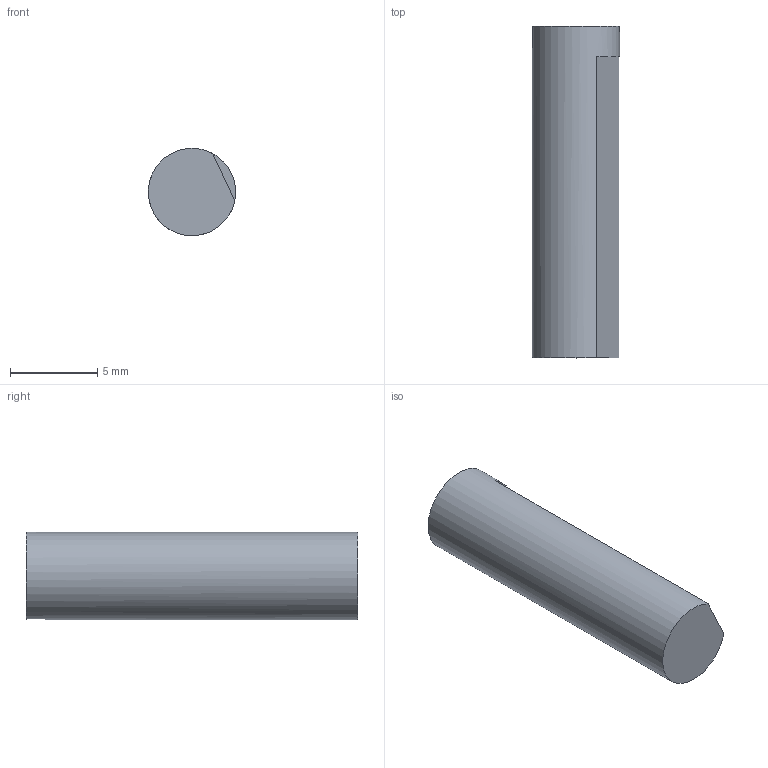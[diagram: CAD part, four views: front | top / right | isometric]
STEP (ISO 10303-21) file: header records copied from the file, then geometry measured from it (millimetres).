
FILE_DESCRIPTION(/* description */ (''),/* implementation_level */ '2;1');
FILE_NAME(/* name */ 'wal silnika.step',/* time_stamp */ '2026-03-04T15:17:06+01:00',/* author */ (''),/* organization */ (''),/* preprocessor_version */ 'ST-DEVELOPER v20.1',/* originating_system */ 'Autodesk Translation Framework v14.24.0.0',/* authorisation */ '');
FILE_SCHEMA (('AUTOMOTIVE_DESIGN { 1 0 10303 214 3 1 1 }'));
Length unit declared in the file: millimetre
Products named in the file (1): wal silnika
Bounding box: 4.99 x 19 x 5 mm (x, y, z)
Volume: 355.4 mm3; surface area: 334 mm2
Topology: 1 solids, 1 shells, 5 faces, 9 edges, 6 vertices
Faces by surface type: plane 4, cylinder 1
Full cylindrical faces by diameter (mm): 5 x1
Entity records: 160 total; most frequent: DIRECTION 25, CARTESIAN_POINT 21, ORIENTED_EDGE 18, AXIS2_PLACEMENT_3D 10, EDGE_CURVE 9, VERTEX_POINT 6, FACE_OUTER_BOUND 5, EDGE_LOOP 5
